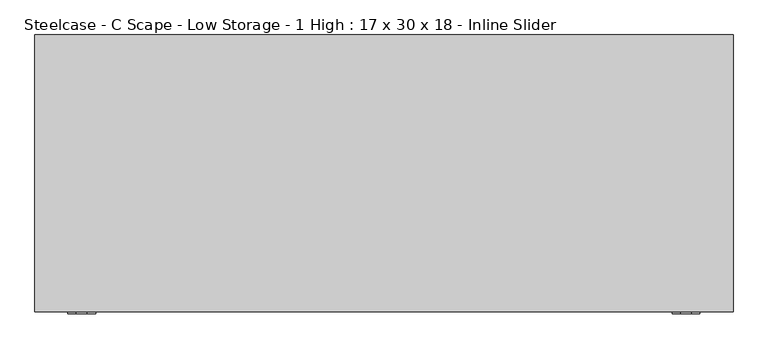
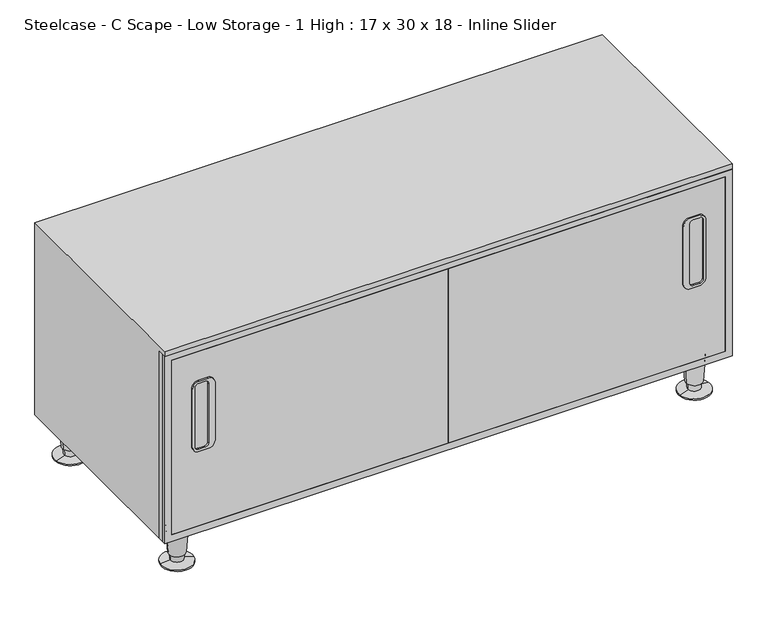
"""IFC4 building model written with IfcOpenShell, lengths in millimetres: furniture geometry, Steelcase - C Scape - Low Storage - 1 High : 17 x 30 x 18 - Inline Slider."""

from ifc_helpers import new_model, si_unit, point, frame, frame_2d, origin, place, context, project, spatial, polyline, circle_curve, trimmed, segment, composite_curve, outline, extrude, faceted_brep, source, transform, mapped, element, save
from ifc_brep_helpers import plane_surface, cylinder_surface, revolved_surface, advanced_brep


def steelcase_c_scape_low_storage_1_high_17_x_30_x_18_inline_6862d099(model_context):
    return source(origin(), model_context, "Body", "SolidModel", [
        extrude(outline(polyline([(76.2, 0.0), (76.2, 1065.53), (447.0400097, 1065.53), (447.0400097, 0.0), (76.2, 0.0)]), holes=[polyline([(436.2449927, 13.4770391), (436.2449927, 1052.1950775), (89.5349964, 1052.1950775), (89.5349964, 13.4770391), (436.2449927, 13.4770391)])]), frame((0.0, -422.5288605, 0.0), z_axis=(0.0, 1.0, 0.0), x_axis=(0.0, 0.0, 1.0)), (0.0, 0.0, 1.0), 7.2376202),
        advanced_brep(
        [(999.3527179, -383.7693967, 76.2), (1037.0144568, -378.0071556, 76.2), (1018.1835874, -380.8882761, 76.2), (1003.3030659, -383.164994, 19.05), (1033.0641088, -378.6115583, 19.05), (1005.7326529, -382.7932675, 19.05), (1030.6345219, -378.9832848, 19.05), (1006.4214224, -382.6878858, 5.7545598), (1029.9457524, -379.0886664, 5.7545598), (989.0725389, -385.3422628, 2.5119506), (1047.2946359, -376.4342895, 2.5119506), (989.0725389, -385.3422628, 0.0), (1047.2946359, -376.4342895, 0.0), (1018.1835874, -380.8882761, 0.0)],
        [
            (0, 1, circle_curve(frame((1018.1835874, -380.8882761, 76.2), z_axis=(0.0, 0.0, 1.0), x_axis=(0.0, 1.0, 0.0)), 19.05)),
            (1, 2),
            (2, 0),
            (1, 0, circle_curve(frame((1018.1835874, -380.8882761, 76.2), z_axis=(0.0, 0.0, 1.0), x_axis=(0.0, 1.0, 0.0)), 19.05)),
            (3, 4, circle_curve(frame((1018.1835874, -380.8882761, 19.05), z_axis=(0.0, 0.0, 1.0), x_axis=(0.0, 1.0, 0.0)), 15.0536827)),
            (4, 1),
            (0, 3),
            (4, 3, circle_curve(frame((1018.1835874, -380.8882761, 19.05), z_axis=(0.0, 0.0, 1.0), x_axis=(0.0, 1.0, 0.0)), 15.0536827)),
            (5, 6, circle_curve(frame((1018.1835874, -380.8882761, 19.05), z_axis=(0.0, 0.0, 1.0), x_axis=(0.0, 1.0, 0.0)), 12.5958232)),
            (6, 4),
            (3, 5),
            (6, 5, circle_curve(frame((1018.1835874, -380.8882761, 19.05), z_axis=(0.0, 0.0, 1.0), x_axis=(0.0, 1.0, 0.0)), 12.5958232)),
            (7, 8, circle_curve(frame((1018.1835874, -380.8882761, 5.7545598), z_axis=(0.0, 0.0, 1.0), x_axis=(0.0, 1.0, 0.0)), 11.8990387)),
            (8, 6),
            (5, 7),
            (8, 7, circle_curve(frame((1018.1835874, -380.8882761, 5.7545598), z_axis=(0.0, 0.0, 1.0), x_axis=(0.0, 1.0, 0.0)), 11.8990387)),
            (9, 10, circle_curve(frame((1018.1835874, -380.8882761, 2.5119506), z_axis=(0.0, 0.0, 1.0), x_axis=(0.0, 1.0, 0.0)), 29.4498071)),
            (10, 8),
            (7, 9),
            (10, 9, circle_curve(frame((1018.1835874, -380.8882761, 2.5119506), z_axis=(0.0, 0.0, 1.0), x_axis=(0.0, 1.0, 0.0)), 29.4498071)),
            (11, 12, circle_curve(frame((1018.1835874, -380.8882761, 0.0), z_axis=(0.0, 0.0, 1.0), x_axis=(0.0, 1.0, 0.0)), 29.4498071)),
            (12, 10),
            (9, 11),
            (12, 11, circle_curve(frame((1018.1835874, -380.8882761, 0.0), z_axis=(0.0, 0.0, 1.0), x_axis=(0.0, 1.0, 0.0)), 29.4498071)),
            (13, 12),
            (11, 13),
        ],
        [
            plane_surface(frame((1018.1835874, -380.8882761, 76.2), z_axis=(0.0, 0.0, 1.0), x_axis=(0.0, 1.0, 0.0))),
            revolved_surface(polyline([(1018.1835874, -361.8382761, 76.2), (1018.1835874, -365.8345934, 19.05)]), (1018.1835874, -380.8882761, 25.4), (0.0, 0.0, -1.0)),
            plane_surface(frame((1018.1835874, -380.8882761, 19.05), z_axis=(0.0, 0.0, -1.0), x_axis=(0.0, 1.0, 0.0))),
            revolved_surface(polyline([(1018.1835874, -368.292453, 19.05), (1018.1835874, -368.9892375, 5.7545598)]), (1018.1835874, -380.8882761, 25.4), (0.0, 0.0, -1.0)),
            revolved_surface(polyline([(1018.1835874, -368.9892375, 5.7545598), (1018.1835874, -351.438469, 2.5119506)]), (1018.1835874, -380.8882761, 25.4), (0.0, 0.0, -1.0)),
            cylinder_surface(frame((1018.1835874, -380.8882761, 25.4), z_axis=(0.0, 0.0, -1.0), x_axis=(0.0, 1.0, 0.0)), 29.4498071),
            plane_surface(frame((1018.1835874, -380.8882761, 0.0), z_axis=(0.0, 0.0, -1.0), x_axis=(0.0, 1.0, 0.0))),
        ],
        [
            (0, [[1, 2, 3]]),
            (0, [[4, -3, -2]]),
            (1, [[5, 6, -1, 7]]),
            (1, [[8, -7, -4, -6]]),
            (2, [[9, 10, -5, 11]]),
            (2, [[12, -11, -8, -10]]),
            (3, [[13, 14, -9, 15]]),
            (3, [[16, -15, -12, -14]]),
            (4, [[17, 18, -13, 19]]),
            (4, [[20, -19, -16, -18]]),
            (5, [[21, 22, -17, 23]]),
            (5, [[24, -23, -20, -22]]),
            (6, [[25, -21, 26]]),
            (6, [[-26, -24, -25]]),
        ],
    ),
        advanced_brep(
        [(75.8224611, -385.3422628, 0.0), (17.6003641, -376.4342895, 0.0), (46.7114126, -380.8882761, 0.0), (75.8224611, -385.3422628, 2.5119506), (17.6003641, -376.4342895, 2.5119506), (58.4735776, -382.6878858, 5.7545598), (34.9492476, -379.0886664, 5.7545598), (59.1623471, -382.7932675, 19.05), (34.2604781, -378.9832848, 19.05), (61.5919341, -383.164994, 19.05), (31.8308912, -378.6115583, 19.05), (65.5422821, -383.7693967, 76.2), (27.8805432, -378.0071556, 76.2), (46.7114126, -380.8882761, 76.2)],
        [
            (0, 1, circle_curve(frame((46.7114126, -380.8882761, 0.0), z_axis=(0.0, 0.0, -1.0), x_axis=(0.0, 1.0, 0.0)), 29.4498071)),
            (1, 2),
            (2, 0),
            (1, 0, circle_curve(frame((46.7114126, -380.8882761, 0.0), z_axis=(0.0, 0.0, -1.0), x_axis=(0.0, 1.0, 0.0)), 29.4498071)),
            (3, 4, circle_curve(frame((46.7114126, -380.8882761, 2.5119506), z_axis=(0.0, 0.0, -1.0), x_axis=(0.0, 1.0, 0.0)), 29.4498071)),
            (4, 1),
            (0, 3),
            (4, 3, circle_curve(frame((46.7114126, -380.8882761, 2.5119506), z_axis=(0.0, 0.0, -1.0), x_axis=(0.0, 1.0, 0.0)), 29.4498071)),
            (5, 6, circle_curve(frame((46.7114126, -380.8882761, 5.7545598), z_axis=(0.0, 0.0, -1.0), x_axis=(0.0, 1.0, 0.0)), 11.8990387)),
            (6, 4),
            (3, 5),
            (6, 5, circle_curve(frame((46.7114126, -380.8882761, 5.7545598), z_axis=(0.0, 0.0, -1.0), x_axis=(0.0, 1.0, 0.0)), 11.8990387)),
            (7, 8, circle_curve(frame((46.7114126, -380.8882761, 19.05), z_axis=(0.0, 0.0, -1.0), x_axis=(0.0, 1.0, 0.0)), 12.5958232)),
            (8, 6),
            (5, 7),
            (8, 7, circle_curve(frame((46.7114126, -380.8882761, 19.05), z_axis=(0.0, 0.0, -1.0), x_axis=(0.0, 1.0, 0.0)), 12.5958232)),
            (9, 10, circle_curve(frame((46.7114126, -380.8882761, 19.05), z_axis=(0.0, 0.0, -1.0), x_axis=(0.0, 1.0, 0.0)), 15.0536827)),
            (10, 8),
            (7, 9),
            (10, 9, circle_curve(frame((46.7114126, -380.8882761, 19.05), z_axis=(0.0, 0.0, -1.0), x_axis=(0.0, 1.0, 0.0)), 15.0536827)),
            (11, 12, circle_curve(frame((46.7114126, -380.8882761, 76.2), z_axis=(0.0, 0.0, -1.0), x_axis=(0.0, 1.0, 0.0)), 19.05)),
            (12, 10),
            (9, 11),
            (12, 11, circle_curve(frame((46.7114126, -380.8882761, 76.2), z_axis=(0.0, 0.0, -1.0), x_axis=(0.0, 1.0, 0.0)), 19.05)),
            (13, 12),
            (11, 13),
        ],
        [
            plane_surface(frame((46.7114126, -380.8882761, 0.0), z_axis=(0.0, 0.0, -1.0), x_axis=(0.0, 1.0, 0.0))),
            cylinder_surface(frame((46.7114126, -380.8882761, 25.4), z_axis=(0.0, 0.0, 1.0), x_axis=(0.0, 1.0, 0.0)), 29.4498071),
            revolved_surface(polyline([(46.7114126, -351.438469, 2.5119506), (46.7114126, -368.9892375, 5.7545598)]), (46.7114126, -380.8882761, 25.4), (0.0, 0.0, 1.0)),
            revolved_surface(polyline([(46.7114126, -368.9892375, 5.7545598), (46.7114126, -368.292453, 19.05)]), (46.7114126, -380.8882761, 25.4), (0.0, 0.0, 1.0)),
            plane_surface(frame((46.7114126, -380.8882761, 19.05), z_axis=(0.0, 0.0, -1.0), x_axis=(0.0, 1.0, 0.0))),
            revolved_surface(polyline([(46.7114126, -365.8345934, 19.05), (46.7114126, -361.8382761, 76.2)]), (46.7114126, -380.8882761, 25.4), (0.0, 0.0, 1.0)),
            plane_surface(frame((46.7114126, -380.8882761, 76.2), z_axis=(0.0, 0.0, 1.0), x_axis=(0.0, 1.0, 0.0))),
        ],
        [
            (0, [[1, 2, 3]]),
            (0, [[4, -3, -2]]),
            (1, [[5, 6, -1, 7]]),
            (1, [[8, -7, -4, -6]]),
            (2, [[9, 10, -5, 11]]),
            (2, [[12, -11, -8, -10]]),
            (3, [[13, 14, -9, 15]]),
            (3, [[16, -15, -12, -14]]),
            (4, [[17, 18, -13, 19]]),
            (4, [[20, -19, -16, -18]]),
            (5, [[21, 22, -17, 23]]),
            (5, [[24, -23, -20, -22]]),
            (6, [[25, -21, 26]]),
            (6, [[-26, -24, -25]]),
        ],
    ),
        extrude(outline(composite_curve([segment(polyline([(252.0462433, 92.5827209), (366.346425, 92.5827209)]), True, "CONTINUOUS"), segment(trimmed(circle_curve(frame_2d((366.346425, 79.8829147)), 12.6998062), [point((366.346425, 92.5827209))], [point((379.0462312, 79.8829147))], False, "CARTESIAN"), True, "CONTINUOUS"), segment(polyline([(379.0462312, 79.8829147), (379.0462312, 62.9920853)]), True, "CONTINUOUS"), segment(trimmed(circle_curve(frame_2d((366.346425, 62.9920853)), 12.6998062), [point((379.0462312, 62.9920853))], [point((366.346425, 50.2922791))], False, "CARTESIAN"), True, "CONTINUOUS"), segment(polyline([(366.346425, 50.2922791), (252.0460434, 50.2922791)]), True, "CONTINUOUS"), segment(trimmed(circle_curve(frame_2d((252.0460434, 62.9920853)), 12.6998062), [point((252.0460434, 50.2922791))], [point((239.3462372, 62.9920853))], False, "CARTESIAN"), True, "CONTINUOUS"), segment(polyline([(239.3462372, 62.9920853), (239.3462372, 79.8827149)]), True, "CONTINUOUS"), segment(trimmed(circle_curve(frame_2d((252.0462433, 79.8827149)), 12.7000061), [point((239.3462372, 79.8827149))], [point((252.0462433, 92.5827209))], False, "CARTESIAN"), True, "CONTINUOUS")], self_intersect=False), holes=[composite_curve([segment(polyline([(250.5198103, 55.1181473), (367.8685704, 55.1181473)]), True, "CONTINUOUS"), segment(trimmed(circle_curve(frame_2d((367.8685704, 61.4677597)), 6.3496124), [point((367.8685704, 55.1181473))], [point((374.2181828, 61.4677597))], True, "CARTESIAN"), True, "CONTINUOUS"), segment(polyline([(374.2181828, 61.4677597), (374.2181828, 74.1681473)]), True, "CONTINUOUS"), segment(trimmed(circle_curve(frame_2d((367.8685704, 74.1681473)), 6.3496124), [point((374.2181828, 74.1681473))], [point((367.8685704, 80.5177597))], True, "CARTESIAN"), True, "CONTINUOUS"), segment(polyline([(367.8685704, 80.5177597), (250.5198103, 80.5177597)]), True, "CONTINUOUS"), segment(trimmed(circle_curve(frame_2d((250.5198103, 74.1681473)), 6.3496124), [point((250.5198103, 80.5177597))], [point((244.1701979, 74.1681473))], True, "CARTESIAN"), True, "CONTINUOUS"), segment(polyline([(244.1701979, 74.1681473), (244.1701979, 61.4677597)]), True, "CONTINUOUS"), segment(trimmed(circle_curve(frame_2d((250.5198103, 61.4677597)), 6.3496124), [point((244.1701979, 61.4677597))], [point((250.5198103, 55.1181473))], True, "CARTESIAN"), True, "CONTINUOUS")], self_intersect=False)]), frame((0.0, -425.4806669, 0.0), z_axis=(0.0, 1.0, 0.0), x_axis=(0.0, 0.0, 1.0)), (0.0, 0.0, 1.0), 2.9518064),
        extrude(outline(composite_curve([segment(trimmed(circle_curve(frame_2d((252.0462433, 985.0122851)), 12.7000061), [point((252.0462433, 972.3122791))], [point((239.3462372, 985.0122851))], False, "CARTESIAN"), True, "CONTINUOUS"), segment(polyline([(239.3462372, 985.0122851), (239.3462372, 1001.9029147)]), True, "CONTINUOUS"), segment(trimmed(circle_curve(frame_2d((252.0460434, 1001.9029147)), 12.6998062), [point((239.3462372, 1001.9029147))], [point((252.0460434, 1014.6027209))], False, "CARTESIAN"), True, "CONTINUOUS"), segment(polyline([(252.0460434, 1014.6027209), (366.346425, 1014.6027209)]), True, "CONTINUOUS"), segment(trimmed(circle_curve(frame_2d((366.346425, 1001.9029147)), 12.6998062), [point((366.346425, 1014.6027209))], [point((379.0462312, 1001.9029147))], False, "CARTESIAN"), True, "CONTINUOUS"), segment(polyline([(379.0462312, 1001.9029147), (379.0462312, 985.0120853)]), True, "CONTINUOUS"), segment(trimmed(circle_curve(frame_2d((366.346425, 985.0120853)), 12.6998062), [point((379.0462312, 985.0120853))], [point((366.346425, 972.3122791))], False, "CARTESIAN"), True, "CONTINUOUS"), segment(polyline([(366.346425, 972.3122791), (252.0462433, 972.3122791)]), True, "CONTINUOUS")], self_intersect=False), holes=[composite_curve([segment(trimmed(circle_curve(frame_2d((250.5198103, 1003.4272403)), 6.3496124), [point((250.5198103, 1009.7768527))], [point((244.1701979, 1003.4272403))], True, "CARTESIAN"), True, "CONTINUOUS"), segment(polyline([(244.1701979, 1003.4272403), (244.1701979, 990.7268527)]), True, "CONTINUOUS"), segment(trimmed(circle_curve(frame_2d((250.5198103, 990.7268527)), 6.3496124), [point((244.1701979, 990.7268527))], [point((250.5198103, 984.3772403))], True, "CARTESIAN"), True, "CONTINUOUS"), segment(polyline([(250.5198103, 984.3772403), (367.8685704, 984.3772403)]), True, "CONTINUOUS"), segment(trimmed(circle_curve(frame_2d((367.8685704, 990.7268527)), 6.3496124), [point((367.8685704, 984.3772403))], [point((374.2181828, 990.7268527))], True, "CARTESIAN"), True, "CONTINUOUS"), segment(polyline([(374.2181828, 990.7268527), (374.2181828, 1003.4272403)]), True, "CONTINUOUS"), segment(trimmed(circle_curve(frame_2d((367.8685704, 1003.4272403)), 6.3496124), [point((374.2181828, 1003.4272403))], [point((367.8685704, 1009.7768527))], True, "CARTESIAN"), True, "CONTINUOUS"), segment(polyline([(367.8685704, 1009.7768527), (250.5198103, 1009.7768527)]), True, "CONTINUOUS")], self_intersect=False)]), frame((0.0, -425.5041095, 0.0), z_axis=(0.0, 1.0, 0.0), x_axis=(0.0, 0.0, 1.0)), (0.0, 0.0, 1.0), 2.975249),
        extrude(outline(polyline([(76.2, 0.0), (76.2, 1065.53), (447.0400097, 1065.53), (447.0400097, 0.0), (76.2, 0.0)]), holes=[polyline([(436.2449927, 13.4770391), (436.2449927, 1052.1950775), (89.5349964, 1052.1950775), (89.5349964, 13.4770391), (436.2449927, 13.4770391)])]), frame((0.0, -415.2912402, 0.0), z_axis=(0.0, 1.0, 0.0), x_axis=(0.0, 0.0, 1.0)), (0.0, 0.0, 1.0), 11.4256592),
        advanced_brep(
        [(1038.2598695, -31.5218435, 76.2), (1000.5981305, -37.2840847, 76.2), (1019.429, -34.4029641, 76.2), (1034.3095214, -32.1262463, 19.05), (1004.5484786, -36.6796819, 19.05), (1031.8799345, -32.4979728, 19.05), (1006.9780655, -36.3079555, 19.05), (1031.191165, -32.6033544, 5.7545598), (1007.666835, -36.2025738, 5.7545598), (1048.5400485, -29.9489775, 2.5119506), (990.3179515, -38.8569507, 2.5119506), (1048.5400485, -29.9489775, 0.0), (990.3179515, -38.8569507, 0.0), (1019.429, -34.4029641, 0.0)],
        [
            (0, 1, circle_curve(frame((1019.429, -34.4029641, 76.2), z_axis=(0.0, 0.0, 1.0), x_axis=(0.0, -1.0, 0.0)), 19.05)),
            (1, 2),
            (2, 0),
            (1, 0, circle_curve(frame((1019.429, -34.4029641, 76.2), z_axis=(0.0, 0.0, 1.0), x_axis=(0.0, -1.0, 0.0)), 19.05)),
            (3, 4, circle_curve(frame((1019.429, -34.4029641, 19.05), z_axis=(0.0, 0.0, 1.0), x_axis=(0.0, -1.0, 0.0)), 15.0536827)),
            (4, 1),
            (0, 3),
            (4, 3, circle_curve(frame((1019.429, -34.4029641, 19.05), z_axis=(0.0, 0.0, 1.0), x_axis=(0.0, -1.0, 0.0)), 15.0536827)),
            (5, 6, circle_curve(frame((1019.429, -34.4029641, 19.05), z_axis=(0.0, 0.0, 1.0), x_axis=(0.0, -1.0, 0.0)), 12.5958232)),
            (6, 4),
            (3, 5),
            (6, 5, circle_curve(frame((1019.429, -34.4029641, 19.05), z_axis=(0.0, 0.0, 1.0), x_axis=(0.0, -1.0, 0.0)), 12.5958232)),
            (7, 8, circle_curve(frame((1019.429, -34.4029641, 5.7545598), z_axis=(0.0, 0.0, 1.0), x_axis=(0.0, -1.0, 0.0)), 11.8990387)),
            (8, 6),
            (5, 7),
            (8, 7, circle_curve(frame((1019.429, -34.4029641, 5.7545598), z_axis=(0.0, 0.0, 1.0), x_axis=(0.0, -1.0, 0.0)), 11.8990387)),
            (9, 10, circle_curve(frame((1019.429, -34.4029641, 2.5119506), z_axis=(0.0, 0.0, 1.0), x_axis=(0.0, -1.0, 0.0)), 29.4498071)),
            (10, 8),
            (7, 9),
            (10, 9, circle_curve(frame((1019.429, -34.4029641, 2.5119506), z_axis=(0.0, 0.0, 1.0), x_axis=(0.0, -1.0, 0.0)), 29.4498071)),
            (11, 12, circle_curve(frame((1019.429, -34.4029641, 0.0), z_axis=(0.0, 0.0, 1.0), x_axis=(0.0, -1.0, 0.0)), 29.4498071)),
            (12, 10),
            (9, 11),
            (12, 11, circle_curve(frame((1019.429, -34.4029641, 0.0), z_axis=(0.0, 0.0, 1.0), x_axis=(0.0, -1.0, 0.0)), 29.4498071)),
            (13, 12),
            (11, 13),
        ],
        [
            plane_surface(frame((1019.429, -34.4029641, 76.2), z_axis=(0.0, 0.0, 1.0), x_axis=(0.0, -1.0, 0.0))),
            revolved_surface(polyline([(1019.429, -53.4529641, 76.2), (1019.429, -49.4566468, 19.05)]), (1019.429, -34.4029641, 25.4), (0.0, 0.0, -1.0)),
            plane_surface(frame((1019.429, -34.4029641, 19.05), z_axis=(0.0, 0.0, -1.0), x_axis=(0.0, -1.0, 0.0))),
            revolved_surface(polyline([(1019.429, -46.9987873, 19.05), (1019.429, -46.3020028, 5.7545598)]), (1019.429, -34.4029641, 25.4), (0.0, 0.0, -1.0)),
            revolved_surface(polyline([(1019.429, -46.3020028, 5.7545598), (1019.429, -63.8527712, 2.5119506)]), (1019.429, -34.4029641, 25.4), (0.0, 0.0, -1.0)),
            cylinder_surface(frame((1019.429, -34.4029641, 25.4), z_axis=(0.0, 0.0, -1.0), x_axis=(0.0, -1.0, 0.0)), 29.4498071),
            plane_surface(frame((1019.429, -34.4029641, 0.0), z_axis=(0.0, 0.0, -1.0), x_axis=(0.0, -1.0, 0.0))),
        ],
        [
            (0, [[1, 2, 3]]),
            (0, [[4, -3, -2]]),
            (1, [[5, 6, -1, 7]]),
            (1, [[8, -7, -4, -6]]),
            (2, [[9, 10, -5, 11]]),
            (2, [[12, -11, -8, -10]]),
            (3, [[13, 14, -9, 15]]),
            (3, [[16, -15, -12, -14]]),
            (4, [[17, 18, -13, 19]]),
            (4, [[20, -19, -16, -18]]),
            (5, [[21, 22, -17, 23]]),
            (5, [[24, -23, -20, -22]]),
            (6, [[25, -21, 26]]),
            (6, [[-26, -24, -25]]),
        ],
    ),
        advanced_brep(
        [(65.5422821, -31.5218435, 76.2), (27.8805432, -37.2840847, 76.2), (46.7114126, -34.4029641, 76.2), (61.5919341, -32.1262463, 19.05), (31.8308912, -36.6796819, 19.05), (59.1623471, -32.4979728, 19.05), (34.2604781, -36.3079555, 19.05), (58.4735776, -32.6033544, 5.7545598), (34.9492476, -36.2025738, 5.7545598), (75.8224611, -29.9489775, 2.5119506), (17.6003641, -38.8569507, 2.5119506), (75.8224611, -29.9489775, 0.0), (17.6003641, -38.8569507, 0.0), (46.7114126, -34.4029641, 0.0)],
        [
            (0, 1, circle_curve(frame((46.7114126, -34.4029641, 76.2), z_axis=(0.0, 0.0, 1.0), x_axis=(0.0, -1.0, 0.0)), 19.05)),
            (1, 2),
            (2, 0),
            (1, 0, circle_curve(frame((46.7114126, -34.4029641, 76.2), z_axis=(0.0, 0.0, 1.0), x_axis=(0.0, -1.0, 0.0)), 19.05)),
            (3, 4, circle_curve(frame((46.7114126, -34.4029641, 19.05), z_axis=(0.0, 0.0, 1.0), x_axis=(0.0, -1.0, 0.0)), 15.0536827)),
            (4, 1),
            (0, 3),
            (4, 3, circle_curve(frame((46.7114126, -34.4029641, 19.05), z_axis=(0.0, 0.0, 1.0), x_axis=(0.0, -1.0, 0.0)), 15.0536827)),
            (5, 6, circle_curve(frame((46.7114126, -34.4029641, 19.05), z_axis=(0.0, 0.0, 1.0), x_axis=(0.0, -1.0, 0.0)), 12.5958232)),
            (6, 4),
            (3, 5),
            (6, 5, circle_curve(frame((46.7114126, -34.4029641, 19.05), z_axis=(0.0, 0.0, 1.0), x_axis=(0.0, -1.0, 0.0)), 12.5958232)),
            (7, 8, circle_curve(frame((46.7114126, -34.4029641, 5.7545598), z_axis=(0.0, 0.0, 1.0), x_axis=(0.0, -1.0, 0.0)), 11.8990387)),
            (8, 6),
            (5, 7),
            (8, 7, circle_curve(frame((46.7114126, -34.4029641, 5.7545598), z_axis=(0.0, 0.0, 1.0), x_axis=(0.0, -1.0, 0.0)), 11.8990387)),
            (9, 10, circle_curve(frame((46.7114126, -34.4029641, 2.5119506), z_axis=(0.0, 0.0, 1.0), x_axis=(0.0, -1.0, 0.0)), 29.4498071)),
            (10, 8),
            (7, 9),
            (10, 9, circle_curve(frame((46.7114126, -34.4029641, 2.5119506), z_axis=(0.0, 0.0, 1.0), x_axis=(0.0, -1.0, 0.0)), 29.4498071)),
            (11, 12, circle_curve(frame((46.7114126, -34.4029641, 0.0), z_axis=(0.0, 0.0, 1.0), x_axis=(0.0, -1.0, 0.0)), 29.4498071)),
            (12, 10),
            (9, 11),
            (12, 11, circle_curve(frame((46.7114126, -34.4029641, 0.0), z_axis=(0.0, 0.0, 1.0), x_axis=(0.0, -1.0, 0.0)), 29.4498071)),
            (13, 12),
            (11, 13),
        ],
        [
            plane_surface(frame((46.7114126, -34.4029641, 76.2), z_axis=(0.0, 0.0, 1.0), x_axis=(0.0, -1.0, 0.0))),
            revolved_surface(polyline([(46.7114126, -53.4529641, 76.2), (46.7114126, -49.4566468, 19.05)]), (46.7114126, -34.4029641, 25.4), (0.0, 0.0, -1.0)),
            plane_surface(frame((46.7114126, -34.4029641, 19.05), z_axis=(0.0, 0.0, -1.0), x_axis=(0.0, -1.0, 0.0))),
            revolved_surface(polyline([(46.7114126, -46.9987873, 19.05), (46.7114126, -46.3020028, 5.7545598)]), (46.7114126, -34.4029641, 25.4), (0.0, 0.0, -1.0)),
            revolved_surface(polyline([(46.7114126, -46.3020028, 5.7545598), (46.7114126, -63.8527712, 2.5119506)]), (46.7114126, -34.4029641, 25.4), (0.0, 0.0, -1.0)),
            cylinder_surface(frame((46.7114126, -34.4029641, 25.4), z_axis=(0.0, 0.0, -1.0), x_axis=(0.0, -1.0, 0.0)), 29.4498071),
            plane_surface(frame((46.7114126, -34.4029641, 0.0), z_axis=(0.0, 0.0, -1.0), x_axis=(0.0, -1.0, 0.0))),
        ],
        [
            (0, [[1, 2, 3]]),
            (0, [[4, -3, -2]]),
            (1, [[5, 6, -1, 7]]),
            (1, [[8, -7, -4, -6]]),
            (2, [[9, 10, -5, 11]]),
            (2, [[12, -11, -8, -10]]),
            (3, [[13, 14, -9, 15]]),
            (3, [[16, -15, -12, -14]]),
            (4, [[17, 18, -13, 19]]),
            (4, [[20, -19, -16, -18]]),
            (5, [[21, 22, -17, 23]]),
            (5, [[24, -23, -20, -22]]),
            (6, [[25, -21, 26]]),
            (6, [[-26, -24, -25]]),
        ],
    ),
        extrude(outline(polyline([(532.4475, -422.5288605), (532.4475, -415.2912402), (1052.1950775, -415.2912402), (1052.1950775, -422.5288605), (532.4475, -422.5288605)])), frame((0.0, 0.0, 89.5349964), z_axis=(0.0, 0.0, 1.0), x_axis=(1.0, 0.0, 0.0)), (0.0, 0.0, 1.0), 346.7099964),
        extrude(outline(polyline([(13.4770391, -422.5288605), (13.4770391, -415.2912402), (532.4475, -415.2912402), (532.4475, -422.5288605), (13.4770391, -422.5288605)])), frame((0.0, 0.0, 89.5349964), z_axis=(0.0, 0.0, 1.0), x_axis=(1.0, 0.0, 0.0)), (0.0, 0.0, 1.0), 346.7099964),
        faceted_brep([(1065.53, 0.0, 457.2), (0.0, 0.0, 457.2), (0.0, -422.5288605, 457.2), (1065.53, -422.5288605, 457.2), (1065.53, -422.5288605, 447.0400097), (0.0, -422.5288605, 447.0400097), (0.0, -403.8655811, 447.0400097), (13.4770391, -403.8655811, 447.0400097), (13.4770391, -9.525, 447.0400097), (1052.1950775, -9.525, 447.0400097), (1052.1950775, -403.8655811, 447.0400097), (1065.53, -403.8655811, 447.0400097), (1065.53, 0.0, 76.2), (0.0, 0.0, 76.2), (0.0, -403.8655811, 76.2), (1065.53, -403.8655811, 76.2), (13.4770391, -403.8655811, 89.5349964), (13.4770391, -9.525, 89.5349964), (1052.1950775, -9.525, 89.5349964), (1052.1950775, -403.8655811, 89.5349964)], [[[0, 1, 2, 3]], [[4, 5, 6, 7, 8, 9, 10, 11]], [[1, 0, 12, 13]], [[2, 1, 13, 14, 6, 5]], [[3, 2, 5, 4]], [[0, 3, 4, 11, 15, 12]], [[8, 7, 16, 17]], [[9, 8, 17, 18]], [[10, 9, 18, 19]], [[16, 19, 18, 17]], [[14, 15, 11, 10, 19, 16, 7, 6]], [[12, 15, 14, 13]]]),
    ])


if __name__ == "__main__":
    model = new_model("IFC4")
    model_context = context("Model", 3, world=origin())
    ifc_project = project(units=[si_unit("LENGTHUNIT", "METRE", prefix="MILLI")], contexts=[model_context])
    site = spatial("IfcSite", under=ifc_project)
    building = spatial("IfcBuilding", under=site)
    placement = place(None, origin())
    steelcase_c_scape_low_storage_1_high_17_x_30_x_18_inline_shape = steelcase_c_scape_low_storage_1_high_17_x_30_x_18_inline_6862d099(model_context)
    element("IfcFurniture", 1, ObjectType="Steelcase - C Scape - Low Storage - 1 High : 17 x 30 x 18 - Inline Slider", at=placement, inside=building, context=model_context, shape_type="MappedRepresentation", body=[
        mapped(steelcase_c_scape_low_storage_1_high_17_x_30_x_18_inline_shape, transform((0.0, 0.0, 0.0), x_axis=(1.0, 0.0, 0.0), y_axis=(0.0, 1.0, 0.0), z_axis=(0.0, 0.0, 1.0))),
    ])
    save(model, "model.ifc")
